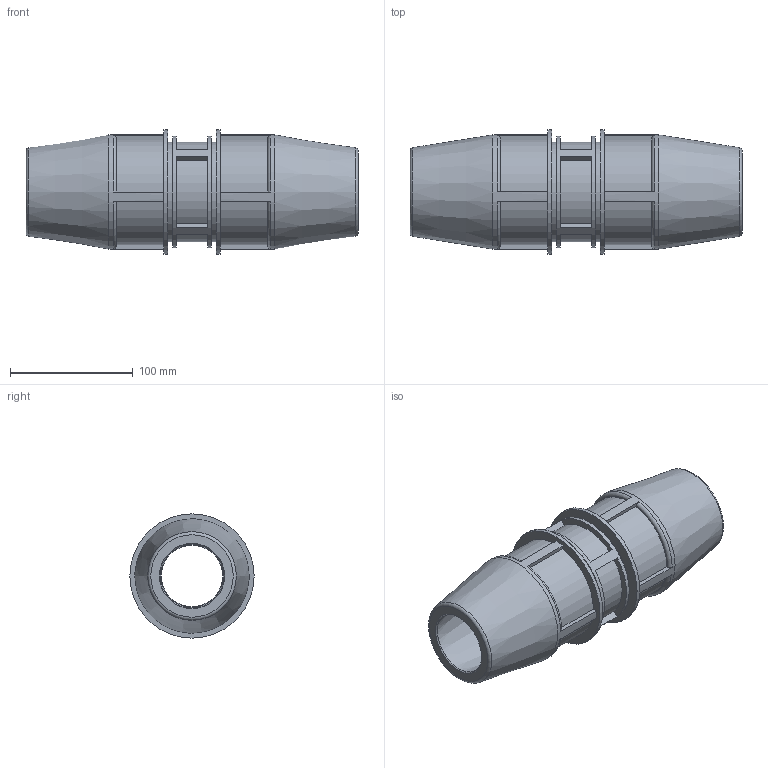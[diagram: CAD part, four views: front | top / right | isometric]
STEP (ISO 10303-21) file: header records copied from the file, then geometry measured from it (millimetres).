
FILE_DESCRIPTION(/* description */ ('PLASSON UNIVERSAL SLIP REPAIR COUPLER 48-51 SERIES 17'),/* implementation_level */ '2;1');
FILE_NAME(/* name */ 'C:\Dropbox\KIMPROJECTS-Inventor\99-16-3568-Processing\S1\17610\176100048051_196100048051.ipt.stp',/* time_stamp */ '2018-02-11T12:57:56+02:00',/* author */ ('KIM'),/* organization */ (''),/* preprocessor_version */ 'ST-DEVELOPER v15.6',/* originating_system */ 'Autodesk Inventor 2015',/* authorisation */ '');
FILE_SCHEMA (('AUTOMOTIVE_DESIGN { 1 0 10303 214 3 1 1 }'));
Length unit declared in the file: millimetre
Products named in the file (1): 176100048051_196100048051
Bounding box: 270 x 101 x 101 mm (x, y, z)
Volume: 892493.3 mm3; surface area: 144682.8 mm2
Topology: 1 solids, 1 shells, 86 faces, 211 edges, 138 vertices
Faces by surface type: plane 50, cylinder 20, torus 10, cone 6
Full cylindrical faces by diameter (mm): 49.98 x1, 80.8 x2, 90.9 x1, 92.92 x2, 101 x2
Entity records: 2492 total; most frequent: DIRECTION 462, CARTESIAN_POINT 415, ORIENTED_EDGE 384, EDGE_CURVE 192, AXIS2_PLACEMENT_3D 183, VERTEX_POINT 136, EDGE_LOOP 116, LINE 96
